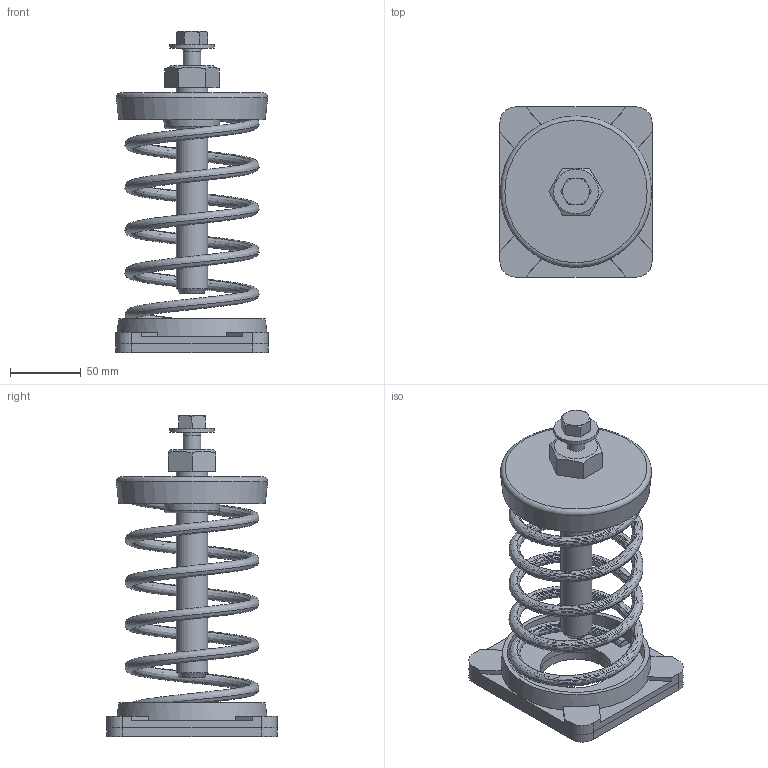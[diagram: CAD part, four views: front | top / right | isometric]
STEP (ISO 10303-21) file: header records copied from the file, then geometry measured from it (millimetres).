
FILE_DESCRIPTION(/* description */ (''),/* implementation_level */ '2;1');
FILE_NAME(/* name */ 'C:\001_Work\Designs\SLF ASSEMBLIES\SLF-127.stp',/* time_stamp */ '2016-01-10T15:09:38-05:00',/* author */ ('rramoutar'),/* organization */ ('Mason Industries Inc.'),/* preprocessor_version */ 'ST-DEVELOPER v15.6',/* originating_system */ 'Autodesk Inventor 2015',/* authorisation */ '');
FILE_SCHEMA (('CONFIG_CONTROL_DESIGN'));
Length unit declared in the file: inch
Products named in the file (1): SLF-127
Bounding box: 107.95 x 120.65 x 227.69 mm (x, y, z)
Volume: 330543.5 mm3; surface area: 174958.1 mm2
Topology: 7 solids, 7 shells, 232 faces, 587 edges, 388 vertices
Faces by surface type: plane 156, bspline 30, cylinder 29, cone 14, torus 3
Full cylindrical faces by diameter (mm): 9.525 x8, 12.7 x2, 13.487 x1, 19.05 x1, 22.225 x2, 31.75 x1, 50.8 x2, 97.631 x2
Entity records: 15579 total; most frequent: CARTESIAN_POINT 10076, ORIENTED_EDGE 1088, DIRECTION 951, EDGE_CURVE 544, VERTEX_POINT 375, LINE 363, VECTOR 363, EDGE_LOOP 299
